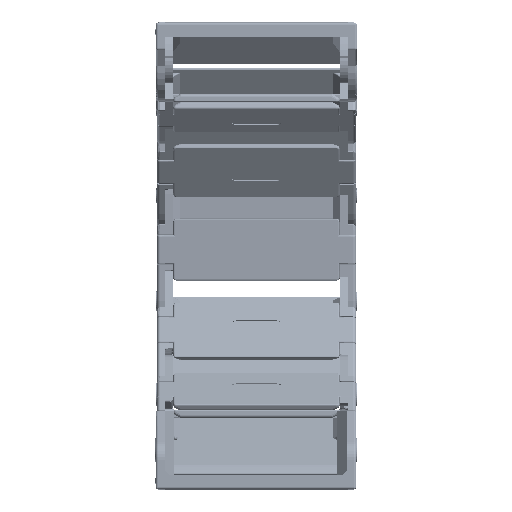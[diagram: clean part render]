
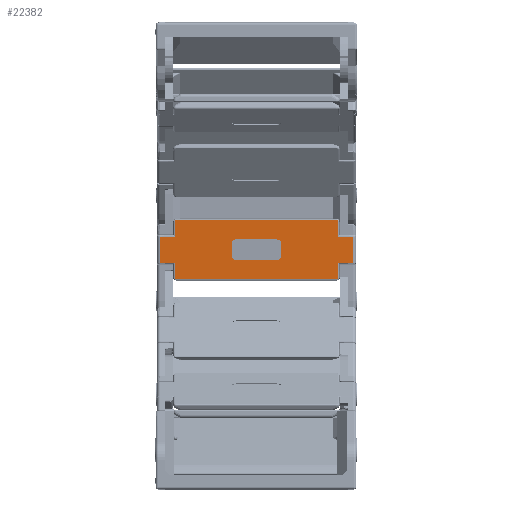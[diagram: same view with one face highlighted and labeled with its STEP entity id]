
A CAD part, front view. The second image highlights one B-rep face of the part: STEP entity #22382.
In plain terms, the highlighted planar face has unit normal (0, -0.997, -0.074).
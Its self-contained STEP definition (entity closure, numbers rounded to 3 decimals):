
#768=FACE_BOUND('',#50303,.T.);
#769=FACE_BOUND('',#50304,.T.);
#12403=CIRCLE('',#208494,0.45);
#12404=CIRCLE('',#208495,0.45);
#12405=CIRCLE('',#208496,0.45);
#12406=CIRCLE('',#208497,0.45);
#12407=CIRCLE('',#208498,1.);
#12408=CIRCLE('',#208499,1.);
#12409=CIRCLE('',#208500,1.);
#12410=CIRCLE('',#208501,1.);
#22382=ADVANCED_FACE('',(#768,#769),#32042,.T.);
#32042=PLANE('',#208502);
#50303=EDGE_LOOP('',(#111454,#111455,#111456,#111457,#111458,#111459,#111460,
#111461,#111462,#111463,#111464,#111465,#111466,#111467,#111468,#111469));
#50304=EDGE_LOOP('',(#111470,#111471,#111472,#111473,#111474,#111475,#111476,
#111477));
#66636=LINE('',#313791,#82442);
#66637=LINE('',#313796,#82443);
#66638=LINE('',#313798,#82444);
#66639=LINE('',#313800,#82445);
#66640=LINE('',#313802,#82446);
#66641=LINE('',#313804,#82447);
#66642=LINE('',#313808,#82448);
#66643=LINE('',#313812,#82449);
#66644=LINE('',#313814,#82450);
#66645=LINE('',#313816,#82451);
#66646=LINE('',#313818,#82452);
#66647=LINE('',#313820,#82453);
#66648=LINE('',#313826,#82454);
#66649=LINE('',#313830,#82455);
#66650=LINE('',#313834,#82456);
#66651=LINE('',#313838,#82457);
#82442=VECTOR('',#242479,1.);
#82443=VECTOR('',#242482,1.);
#82444=VECTOR('',#242483,1.);
#82445=VECTOR('',#242484,1.);
#82446=VECTOR('',#242485,1.);
#82447=VECTOR('',#242486,1.);
#82448=VECTOR('',#242489,1.);
#82449=VECTOR('',#242492,1.);
#82450=VECTOR('',#242493,1.);
#82451=VECTOR('',#242494,1.);
#82452=VECTOR('',#242495,1.);
#82453=VECTOR('',#242496,1.);
#82454=VECTOR('',#242501,1.);
#82455=VECTOR('',#242504,1.);
#82456=VECTOR('',#242507,1.);
#82457=VECTOR('',#242510,1.);
#111454=ORIENTED_EDGE('',*,*,#179352,.T.);
#111455=ORIENTED_EDGE('',*,*,#179353,.F.);
#111456=ORIENTED_EDGE('',*,*,#179354,.T.);
#111457=ORIENTED_EDGE('',*,*,#179355,.T.);
#111458=ORIENTED_EDGE('',*,*,#179356,.T.);
#111459=ORIENTED_EDGE('',*,*,#179357,.T.);
#111460=ORIENTED_EDGE('',*,*,#179358,.T.);
#111461=ORIENTED_EDGE('',*,*,#179359,.T.);
#111462=ORIENTED_EDGE('',*,*,#179360,.T.);
#111463=ORIENTED_EDGE('',*,*,#179361,.T.);
#111464=ORIENTED_EDGE('',*,*,#179362,.T.);
#111465=ORIENTED_EDGE('',*,*,#179363,.T.);
#111466=ORIENTED_EDGE('',*,*,#179364,.F.);
#111467=ORIENTED_EDGE('',*,*,#179365,.T.);
#111468=ORIENTED_EDGE('',*,*,#179366,.T.);
#111469=ORIENTED_EDGE('',*,*,#179367,.T.);
#111470=ORIENTED_EDGE('',*,*,#179368,.T.);
#111471=ORIENTED_EDGE('',*,*,#179369,.T.);
#111472=ORIENTED_EDGE('',*,*,#179370,.T.);
#111473=ORIENTED_EDGE('',*,*,#179371,.T.);
#111474=ORIENTED_EDGE('',*,*,#179372,.T.);
#111475=ORIENTED_EDGE('',*,*,#179373,.T.);
#111476=ORIENTED_EDGE('',*,*,#179374,.T.);
#111477=ORIENTED_EDGE('',*,*,#179375,.T.);
#157892=VERTEX_POINT('',#313792);
#157893=VERTEX_POINT('',#313793);
#157894=VERTEX_POINT('',#313795);
#157895=VERTEX_POINT('',#313797);
#157896=VERTEX_POINT('',#313799);
#157897=VERTEX_POINT('',#313801);
#157898=VERTEX_POINT('',#313803);
#157899=VERTEX_POINT('',#313805);
#157900=VERTEX_POINT('',#313807);
#157901=VERTEX_POINT('',#313809);
#157902=VERTEX_POINT('',#313811);
#157903=VERTEX_POINT('',#313813);
#157904=VERTEX_POINT('',#313815);
#157905=VERTEX_POINT('',#313817);
#157906=VERTEX_POINT('',#313819);
#157907=VERTEX_POINT('',#313821);
#157908=VERTEX_POINT('',#313824);
#157909=VERTEX_POINT('',#313825);
#157910=VERTEX_POINT('',#313827);
#157911=VERTEX_POINT('',#313829);
#157912=VERTEX_POINT('',#313831);
#157913=VERTEX_POINT('',#313833);
#157914=VERTEX_POINT('',#313835);
#157915=VERTEX_POINT('',#313837);
#179352=EDGE_CURVE('',#157892,#157893,#66636,.T.);
#179353=EDGE_CURVE('',#157894,#157893,#12403,.T.);
#179354=EDGE_CURVE('',#157894,#157895,#66637,.T.);
#179355=EDGE_CURVE('',#157895,#157896,#66638,.T.);
#179356=EDGE_CURVE('',#157896,#157897,#66639,.T.);
#179357=EDGE_CURVE('',#157897,#157898,#66640,.T.);
#179358=EDGE_CURVE('',#157898,#157899,#66641,.T.);
#179359=EDGE_CURVE('',#157899,#157900,#12404,.T.);
#179360=EDGE_CURVE('',#157900,#157901,#66642,.T.);
#179361=EDGE_CURVE('',#157901,#157902,#12405,.T.);
#179362=EDGE_CURVE('',#157902,#157903,#66643,.T.);
#179363=EDGE_CURVE('',#157903,#157904,#66644,.T.);
#179364=EDGE_CURVE('',#157905,#157904,#66645,.T.);
#179365=EDGE_CURVE('',#157905,#157906,#66646,.T.);
#179366=EDGE_CURVE('',#157906,#157907,#66647,.T.);
#179367=EDGE_CURVE('',#157907,#157892,#12406,.T.);
#179368=EDGE_CURVE('',#157908,#157909,#12407,.T.);
#179369=EDGE_CURVE('',#157909,#157910,#66648,.T.);
#179370=EDGE_CURVE('',#157910,#157911,#12408,.T.);
#179371=EDGE_CURVE('',#157911,#157912,#66649,.T.);
#179372=EDGE_CURVE('',#157912,#157913,#12409,.T.);
#179373=EDGE_CURVE('',#157913,#157914,#66650,.T.);
#179374=EDGE_CURVE('',#157914,#157915,#12410,.T.);
#179375=EDGE_CURVE('',#157915,#157908,#66651,.T.);
#208494=AXIS2_PLACEMENT_3D('',#313794,#242480,#242481);
#208495=AXIS2_PLACEMENT_3D('',#313806,#242487,#242488);
#208496=AXIS2_PLACEMENT_3D('',#313810,#242490,#242491);
#208497=AXIS2_PLACEMENT_3D('',#313822,#242497,#242498);
#208498=AXIS2_PLACEMENT_3D('',#313823,#242499,#242500);
#208499=AXIS2_PLACEMENT_3D('',#313828,#242502,#242503);
#208500=AXIS2_PLACEMENT_3D('',#313832,#242505,#242506);
#208501=AXIS2_PLACEMENT_3D('',#313836,#242508,#242509);
#208502=AXIS2_PLACEMENT_3D('',#313839,#242511,#242512);
#242479=DIRECTION('',(1.,0.,0.));
#242480=DIRECTION('',(0.,0.997,0.074));
#242481=DIRECTION('',(1.,0.,0.));
#242482=DIRECTION('',(0.,-0.074,0.997));
#242483=DIRECTION('',(1.,0.,0.));
#242484=DIRECTION('',(0.,-0.074,0.997));
#242485=DIRECTION('',(-1.,0.,0.));
#242486=DIRECTION('',(0.,-0.074,0.997));
#242487=DIRECTION('',(0.,-0.997,-0.074));
#242488=DIRECTION('',(1.,0.,0.));
#242489=DIRECTION('',(-1.,0.,0.));
#242490=DIRECTION('',(0.,-0.997,-0.074));
#242491=DIRECTION('',(1.,0.,0.));
#242492=DIRECTION('',(0.,0.074,-0.997));
#242493=DIRECTION('',(-1.,0.,0.));
#242494=DIRECTION('',(0.,-0.074,0.997));
#242495=DIRECTION('',(1.,0.,0.));
#242496=DIRECTION('',(0.,0.074,-0.997));
#242497=DIRECTION('',(0.,-0.997,-0.074));
#242498=DIRECTION('',(1.,0.,0.));
#242499=DIRECTION('',(0.,0.997,0.074));
#242500=DIRECTION('',(1.,0.,0.));
#242501=DIRECTION('',(0.,0.074,-0.997));
#242502=DIRECTION('',(0.,0.997,0.074));
#242503=DIRECTION('',(1.,0.,0.));
#242504=DIRECTION('',(-1.,0.,0.));
#242505=DIRECTION('',(0.,0.997,0.074));
#242506=DIRECTION('',(1.,0.,0.));
#242507=DIRECTION('',(0.,-0.074,0.997));
#242508=DIRECTION('',(0.,0.997,0.074));
#242509=DIRECTION('',(1.,0.,0.));
#242510=DIRECTION('',(1.,0.,0.));
#242511=DIRECTION('',(0.,-0.997,-0.074));
#242512=DIRECTION('',(1.,0.,0.));
#313791=CARTESIAN_POINT('',(-117.25,319.588,41.246));
#313792=CARTESIAN_POINT('',(-123.25,319.588,41.246));
#313793=CARTESIAN_POINT('',(-84.55,319.588,41.246));
#313794=CARTESIAN_POINT('',(-84.55,319.554,41.695));
#313795=CARTESIAN_POINT('',(-84.1,319.554,41.695));
#313796=CARTESIAN_POINT('',(-84.1,320.452,29.662));
#313797=CARTESIAN_POINT('',(-84.1,319.29,45.235));
#313798=CARTESIAN_POINT('',(-117.25,319.29,45.235));
#313799=CARTESIAN_POINT('',(-80.55,319.29,45.235));
#313800=CARTESIAN_POINT('',(-80.55,320.452,29.662));
#313801=CARTESIAN_POINT('',(-80.55,318.814,51.618));
#313802=CARTESIAN_POINT('',(-117.25,318.814,51.618));
#313803=CARTESIAN_POINT('',(-84.1,318.814,51.618));
#313804=CARTESIAN_POINT('',(-84.1,320.452,29.662));
#313805=CARTESIAN_POINT('',(-84.1,318.55,55.158));
#313806=CARTESIAN_POINT('',(-84.55,318.55,55.158));
#313807=CARTESIAN_POINT('',(-84.55,318.516,55.606));
#313808=CARTESIAN_POINT('',(-117.25,318.516,55.606));
#313809=CARTESIAN_POINT('',(-123.25,318.516,55.606));
#313810=CARTESIAN_POINT('',(-123.25,318.55,55.158));
#313811=CARTESIAN_POINT('',(-123.7,318.55,55.158));
#313812=CARTESIAN_POINT('',(-123.7,320.452,29.662));
#313813=CARTESIAN_POINT('',(-123.7,318.814,51.618));
#313814=CARTESIAN_POINT('',(-117.25,318.814,51.618));
#313815=CARTESIAN_POINT('',(-127.25,318.814,51.618));
#313816=CARTESIAN_POINT('',(-127.25,320.452,29.662));
#313817=CARTESIAN_POINT('',(-127.25,319.29,45.235));
#313818=CARTESIAN_POINT('',(-117.25,319.29,45.235));
#313819=CARTESIAN_POINT('',(-123.7,319.29,45.235));
#313820=CARTESIAN_POINT('',(-123.7,320.452,29.662));
#313821=CARTESIAN_POINT('',(-123.7,319.554,41.695));
#313822=CARTESIAN_POINT('',(-123.25,319.554,41.695));
#313823=CARTESIAN_POINT('',(-98.9,318.94,49.922));
#313824=CARTESIAN_POINT('',(-98.9,318.866,50.92));
#313825=CARTESIAN_POINT('',(-97.9,318.94,49.922));
#313826=CARTESIAN_POINT('',(-97.9,320.452,29.662));
#313827=CARTESIAN_POINT('',(-97.9,319.164,46.931));
#313828=CARTESIAN_POINT('',(-98.9,319.164,46.931));
#313829=CARTESIAN_POINT('',(-98.9,319.238,45.933));
#313830=CARTESIAN_POINT('',(-117.25,319.238,45.933));
#313831=CARTESIAN_POINT('',(-108.9,319.238,45.933));
#313832=CARTESIAN_POINT('',(-108.9,319.164,46.931));
#313833=CARTESIAN_POINT('',(-109.9,319.164,46.931));
#313834=CARTESIAN_POINT('',(-109.9,320.452,29.662));
#313835=CARTESIAN_POINT('',(-109.9,318.94,49.922));
#313836=CARTESIAN_POINT('',(-108.9,318.94,49.922));
#313837=CARTESIAN_POINT('',(-108.9,318.866,50.92));
#313838=CARTESIAN_POINT('',(-117.25,318.866,50.92));
#313839=CARTESIAN_POINT('',(-117.25,320.452,29.662));
